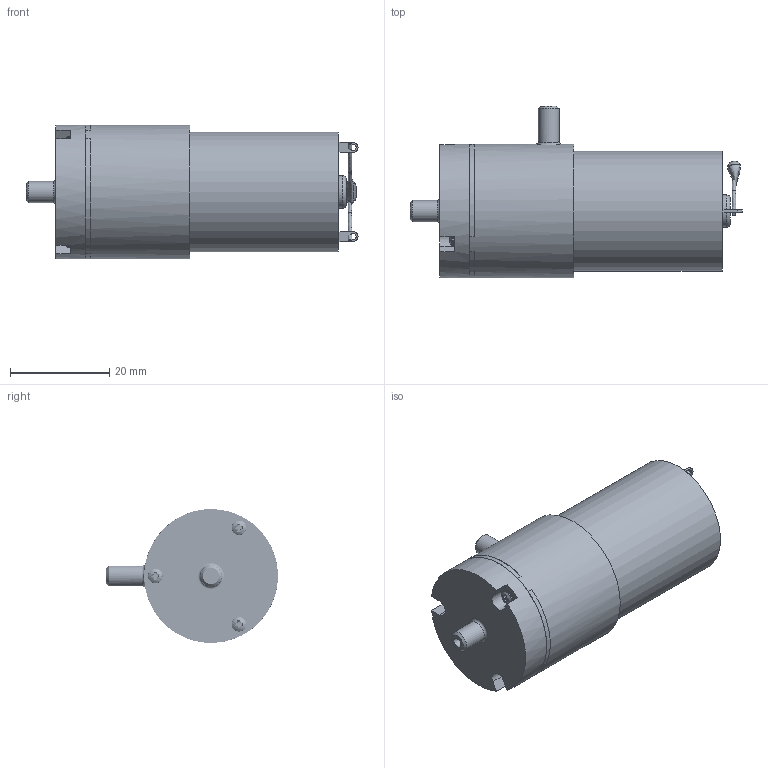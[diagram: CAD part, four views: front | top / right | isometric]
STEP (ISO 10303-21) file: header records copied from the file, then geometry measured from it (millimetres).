
FILE_DESCRIPTION(/* description */ (''),/* implementation_level */ '2;1');
FILE_NAME(/* name */ '/Users/bentonmc/Google Drive/Morphatic/New Computer 2019-2020/HTPC/5V Vacuum Pump/5V DC 100KPa Vacuum Pump.step',/* time_stamp */ '2020-06-30T05:19:03-04:00',/* author */ (''),/* organization */ (''),/* preprocessor_version */ 'ST-DEVELOPER v18.1',/* originating_system */ 'Autodesk Translation Framework v9.3.0.1241',/* authorisation */ '');
FILE_SCHEMA (('AUTOMOTIVE_DESIGN { 1 0 10303 214 3 1 1 }'));
Products named in the file (7): Vacuum Pump; Cap; Body; Gasket; 0-80x0.5" Screw; Housing; Capacitor
Assembly tree (8 placements, depth 2):
  Vacuum Pump
    0-80x0.5" Screw  x3
    Cap
    Body
    Gasket
    Housing
    Capacitor
Bounding box: 67 x 34.7 x 27 mm (x, y, z)
Volume: 29248.9 mm3; surface area: 9967.6 mm2
Topology: 16 solids, 16 shells, 580 faces, 1585 edges, 1054 vertices
Faces by surface type: cylinder 391, plane 127, bspline 26, cone 20, torus 13, sphere 3
Full cylindrical faces by diameter (mm): 1.112 x117, 1.221 x12, 1.25 x2, 1.454 x15, 1.5 x3, 1.524 x114, 2 x6, 2.946 x3, 4.2 x1, 4.3 x1, 6.5 x1, 23.2 x1, 24.2 x1, 27 x2
Entity records: 36283 total; most frequent: CARTESIAN_POINT 28486, ORIENTED_EDGE 1710, DIRECTION 1350, EDGE_CURVE 855, VERTEX_POINT 566, AXIS2_PLACEMENT_3D 514, EDGE_LOOP 353, B_SPLINE_CURVE_WITH_KNOTS 336
